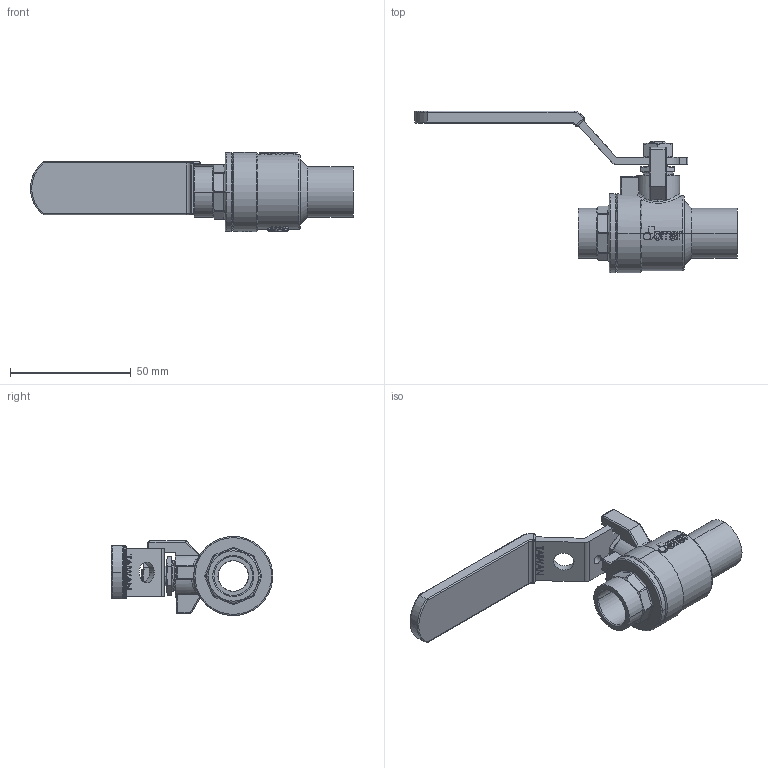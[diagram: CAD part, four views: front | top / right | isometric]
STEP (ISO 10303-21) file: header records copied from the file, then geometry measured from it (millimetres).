
FILE_DESCRIPTION (( 'STEP AP203' ), '1' );
FILE_NAME ('ABL713-無掛鎖-0.5''''JOMAR球閥體-CxC組合-2025.STEP', '2025-06-25T06:51:19', ( '' ), ( '' ), 'SwSTEP 2.0', 'SolidWorks 2018', '' );
FILE_SCHEMA (( 'CONFIG_CONTROL_DESIGN' ));
Length unit declared in the file: millimetre
Products named in the file (13): DN15-CBL211白色膠套-S-200CSSG; RBL263; EBL203A; CBL211; BBL713-0.5''''JOMAR球閥體-CxC-無鉛-端面無插溝; GBL211; DN15-CBL713-HANDLE & SLEEVE 組合(白色S膠套); TBL163-無鑽孔; EBL203B; EBL213; NBL262; ABL713-無掛鎖-0.5''''JOMAR球閥體-CxC組合-2025; BBL713A-0.5''''JOMAR球閥CxC帽蓋-無鉛-端面無插溝
Assembly tree (13 placements, depth 3):
  ABL713-無掛鎖-0.5''''JOMAR球閥體-CxC組合-2025
    BBL713-0.5''''JOMAR球閥體-CxC-無鉛-端面無插溝
    EBL203A
    EBL203B
    GBL211
    RBL263
    TBL163-無鑽孔
    BBL713A-0.5''''JOMAR球閥CxC帽蓋-無鉛-端面無插溝
    EBL213  x2
    NBL262
    DN15-CBL713-HANDLE & SLEEVE 組合(白色S膠套)
      CBL211
      DN15-CBL211白色膠套-S-200CSSG
Bounding box: 133.55 x 66.86 x 32.7 mm (x, y, z)
Volume: 38305.6 mm3; surface area: 33778.2 mm2
Topology: 12 solids, 12 shells, 2232 faces, 5964 edges, 3927 vertices
Faces by surface type: plane 1165, bspline 686, cylinder 271, cone 64, torus 38, sphere 8
Entity records: 119091 total; most frequent: CARTESIAN_POINT 67632, ORIENTED_EDGE 11852, DIRECTION 7745, EDGE_CURVE 5926, VERTEX_POINT 3909, LINE 3647, VECTOR 3647, EDGE_LOOP 2425
